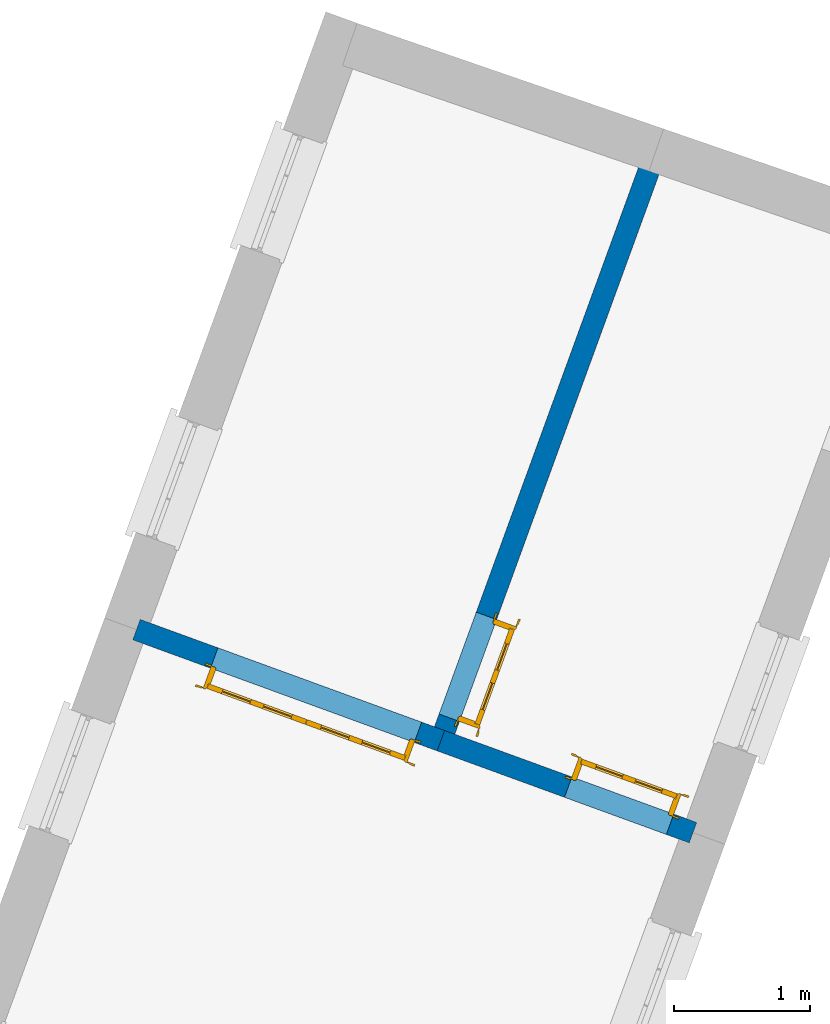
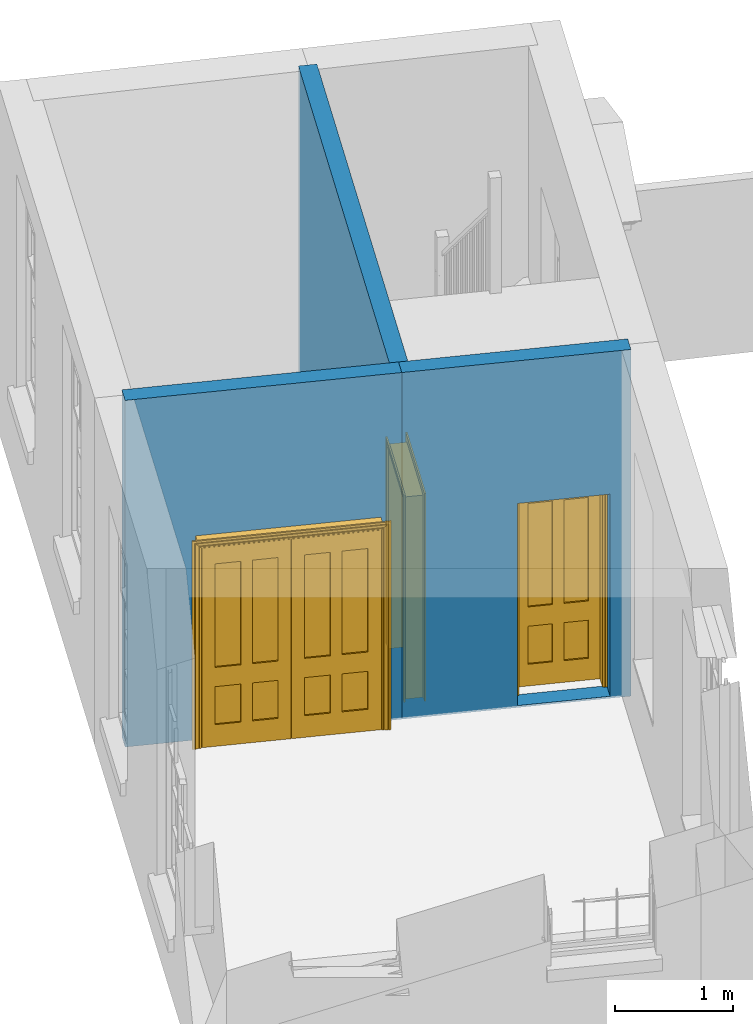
# One storey, part 4 of 6: 3 doors, 3 walls, 3 openings.
"""IFC4 building model written with IfcOpenShell, lengths in metres."""

import ifcopenshell
import ifcopenshell.guid

model = None  # the IFC model being written
_history = None  # IfcOwnerHistory: only IFC2X3 demands one
_inside = {}  # id of a spatial element -> (the spatial element, [elements in it])
_under = {}  # id of a project, library or spatial element -> (it, [spatial elements below it])
_declared = {}  # id of a project -> (the project, [libraries it declares])
_typed = {}  # id of a type object -> (the type object, [elements of that type])
_made_of = {}  # id of a material, layer set ... -> (it, [elements and type objects made of it])


def new_model(schema):
    """Start an empty IFC model of exactly this schema.

    Asked for "IFC4X3", IfcOpenShell would pick the latest addendum, in which some entities
    have other attributes; the version numbers below select the first issue.
    IFC2X3 requires an IfcOwnerHistory on every rooted entity: one is made here for all.
    """
    global model, _history
    if schema == "IFC4X3":
        model = ifcopenshell.file(schema_version=(4, 3, 0, 0))
    else:
        model = ifcopenshell.file(schema=schema)
    _inside.clear()
    _under.clear()
    _declared.clear()
    _typed.clear()
    _made_of.clear()
    _history = None
    if model.schema == "IFC2X3":
        org = make("IfcOrganization", Name="unknown")
        user = make(
            "IfcPersonAndOrganization",
            ThePerson=make("IfcPerson", FamilyName="unknown"),
            TheOrganization=org,
        )
        app = make(
            "IfcApplication",
            ApplicationDeveloper=org,
            Version="unknown",
            ApplicationFullName="unknown",
            ApplicationIdentifier="unknown",
        )
        _history = make(
            "IfcOwnerHistory",
            OwningUser=user,
            OwningApplication=app,
            ChangeAction="ADDED",
            CreationDate=0,
        )
    return model


def make(cls, **values):
    """One entity of the class cls with the attributes given. An attribute that is None is left unset."""
    return model.create_entity(
        cls, **{name: value for name, value in values.items() if value is not None}
    )


def rooted(cls, **values):
    """An entity with a GlobalId (a new one), such as an element, a storey or a relation."""
    return make(cls, GlobalId=ifcopenshell.guid.new(), OwnerHistory=_history, **values)


def si_unit(unit_type, name, prefix=None):
    """IfcSIUnit, for example si_unit("LENGTHUNIT", "METRE", prefix="MILLI")."""
    return make("IfcSIUnit", UnitType=unit_type, Prefix=prefix, Name=name)


def assignment(units):
    """IfcUnitAssignment: the units of a project."""
    return None if units is None else make("IfcUnitAssignment", Units=units)


def point(xyz):
    """IfcCartesianPoint."""
    return None if xyz is None else make("IfcCartesianPoint", Coordinates=xyz)


def direction(xyz):
    """IfcDirection."""
    return None if xyz is None else make("IfcDirection", DirectionRatios=xyz)


def frame(location, z_axis=None, x_axis=None):
    """IfcAxis2Placement3D, a coordinate frame: its origin and axes. An axis left out is left unset."""
    return make(
        "IfcAxis2Placement3D",
        Location=point(location),
        Axis=direction(z_axis),
        RefDirection=direction(x_axis),
    )


def origin():
    """The frame at (0, 0, 0) with its axes left unset."""
    return frame((0.0, 0.0, 0.0))


def origin_with_axes():
    """The frame at (0, 0, 0) with the z axis (0, 0, 1) and the x axis (1, 0, 0) written out."""
    return frame((0.0, 0.0, 0.0), z_axis=(0.0, 0.0, 1.0), x_axis=(1.0, 0.0, 0.0))


def place(relative_to, where):
    """IfcLocalPlacement: puts the frame where relative to a parent placement (None: the world)."""
    return make(
        "IfcLocalPlacement", PlacementRelTo=relative_to, RelativePlacement=where
    )


def context(
    kind, dimensions, precision=None, world=None, true_north=None, identifier=None
):
    """IfcGeometricRepresentationContext, for example the 3D "Model" context."""
    return make(
        "IfcGeometricRepresentationContext",
        ContextIdentifier=identifier,
        ContextType=kind,
        CoordinateSpaceDimension=dimensions,
        Precision=precision,
        WorldCoordinateSystem=world,
        TrueNorth=true_north,
    )


def subcontext(parent, identifier, kind, view, scale=None):
    """IfcGeometricRepresentationSubContext, for example "Body" below "Model"."""
    return make(
        "IfcGeometricRepresentationSubContext",
        ContextIdentifier=identifier,
        ContextType=kind,
        ParentContext=parent,
        TargetScale=scale,
        TargetView=view,
    )


def project(units=None, contexts=None):
    """IfcProject with its units and contexts."""
    return rooted(
        "IfcProject",
        Name="project",
        RepresentationContexts=contexts,
        UnitsInContext=assignment(units),
    )


def spatial(cls, under=None, at=None, **own):
    """A site, building, storey or space (cls), placed at a placement, below another one or the project."""
    s = rooted(cls, ObjectPlacement=at, **own)
    if under is not None:
        _under.setdefault(under.id(), (under, []))[1].append(s)
    return s


def polyline(points):
    """IfcPolyline through the points."""
    return make("IfcPolyline", Points=[point(p) for p in points])


def outline(outer, holes=None, kind="AREA"):
    """IfcArbitraryClosedProfileDef: a profile drawn as a closed curve; with holes, ...WithVoids."""
    if holes is None:
        return make("IfcArbitraryClosedProfileDef", ProfileType=kind, OuterCurve=outer)
    return make(
        "IfcArbitraryProfileDefWithVoids",
        ProfileType=kind,
        OuterCurve=outer,
        InnerCurves=holes,
    )


def extrude(swept, where, along, depth):
    """IfcExtrudedAreaSolid: the profile swept, set in the frame where, extruded along a direction by depth."""
    return make(
        "IfcExtrudedAreaSolid",
        SweptArea=swept,
        Position=where,
        ExtrudedDirection=direction(along),
        Depth=depth,
    )


def faces_of(points, faces, orient=None, outer=None):
    """IfcFace entities. A face is a list of loops; a loop is a list of indices into points, from 0.

    orient and outer hold one flag for each loop. By default every Orientation is true, the
    first loop of a face is its IfcFaceOuterBound and the others are IfcFaceBound.
    """
    made = []
    for i, loops in enumerate(faces):
        bounds = []
        for j, loop in enumerate(loops):
            is_outer = j == 0 if outer is None else outer[i][j]
            bounds.append(
                make(
                    "IfcFaceOuterBound" if is_outer else "IfcFaceBound",
                    Bound=make("IfcPolyLoop", Polygon=[points[k] for k in loop]),
                    Orientation=True if orient is None else orient[i][j],
                )
            )
        made.append(make("IfcFace", Bounds=bounds))
    return made


def faceted_brep(points, faces, orient=None, outer=None, voids=None):
    """IfcFacetedBrep: a solid bounded by flat faces; with voids (closed shells), ...WithVoids."""
    shared = [point(p) for p in points]
    hull = make("IfcClosedShell", CfsFaces=faces_of(shared, faces, orient, outer))
    if voids is None:
        return make("IfcFacetedBrep", Outer=hull)
    return make(
        "IfcFacetedBrepWithVoids",
        Outer=hull,
        Voids=[
            make(cls, CfsFaces=faces_of(shared, fs, o, b)) for cls, fs, o, b in voids
        ],
    )


def shape(context_of_items, identifier, shape_type, items):
    """IfcShapeRepresentation: the items that make up one representation, for example the "Body"."""
    return make(
        "IfcShapeRepresentation",
        ContextOfItems=context_of_items,
        RepresentationIdentifier=identifier,
        RepresentationType=shape_type,
        Items=items,
    )


def source(mapping_origin, context_of_items, identifier, shape_type, items):
    """IfcRepresentationMap: a shape defined once, which mapped items show again and again."""
    return make(
        "IfcRepresentationMap",
        MappingOrigin=mapping_origin,
        MappedRepresentation=shape(context_of_items, identifier, shape_type, items),
    )


def transform(
    local_origin,
    x_axis=None,
    y_axis=None,
    z_axis=None,
    scale=None,
    scale2=None,
    scale3=None,
    uniform=True,
):
    """IfcCartesianTransformationOperator3D, or its non-uniform kind. x_axis, y_axis, z_axis: its Axis1, 2, 3."""
    if uniform:
        return make(
            "IfcCartesianTransformationOperator3D",
            Axis1=direction(x_axis),
            Axis2=direction(y_axis),
            LocalOrigin=point(local_origin),
            Scale=scale,
            Axis3=direction(z_axis),
        )
    return make(
        "IfcCartesianTransformationOperator3DnonUniform",
        Axis1=direction(x_axis),
        Axis2=direction(y_axis),
        LocalOrigin=point(local_origin),
        Scale=scale,
        Axis3=direction(z_axis),
        Scale2=scale2,
        Scale3=scale3,
    )


def mapped(mapping_source, mapping_target):
    """IfcMappedItem: shows the shape of a source again, moved by a transform."""
    return make(
        "IfcMappedItem", MappingSource=mapping_source, MappingTarget=mapping_target
    )


def material(Name=None, Category=None):
    """IfcMaterial."""
    return make("IfcMaterial", Name=Name, Category=Category)


def layer(
    of_material, thickness, ventilated=None, Name=None, Category=None, Priority=None
):
    """IfcMaterialLayer: one layer of a wall or slab, of a material (None: an air gap)."""
    return make(
        "IfcMaterialLayer",
        Material=of_material,
        LayerThickness=thickness,
        IsVentilated=ventilated,
        Name=Name,
        Category=Category,
        Priority=Priority,
    )


def layer_set(layers, Name=None):
    """IfcMaterialLayerSet."""
    return make("IfcMaterialLayerSet", MaterialLayers=layers, LayerSetName=Name)


def layer_usage(for_layer_set, set_direction, sense, offset, extent=None):
    """IfcMaterialLayerSetUsage: how a layer set lies in its element."""
    return make(
        "IfcMaterialLayerSetUsage",
        ForLayerSet=for_layer_set,
        LayerSetDirection=set_direction,
        DirectionSense=sense,
        OffsetFromReferenceLine=offset,
        ReferenceExtent=extent,
    )


def made_of(thing, what):
    """Note that an element or type object is made of a material, layer set ...; save() writes the relation."""
    if what is not None:
        _made_of.setdefault(what.id(), (what, []))[1].append(thing)
    return thing


def type_object(cls, material=None, **own):
    """A type object (cls), such as IfcWallType, which elements share."""
    return made_of(rooted(cls, **own), material)


def type_shapes(of_type, sources):
    """Give a type object the sources (RepresentationMaps) that its elements show as mapped items."""
    of_type.RepresentationMaps = sources


def element(
    cls,
    number,
    at=None,
    inside=None,
    cuts=None,
    type_object=None,
    material=None,
    context=None,
    identifier="Body",
    shape_type=None,
    held_by="IfcProductDefinitionShape",
    body=None,
    shapes=None,
    **own,
):
    """One element of the class cls, such as IfcWall. Its Tag is "e" and its number.

    at: its placement. inside: the storey or other place that contains it. cuts: it is an
    opening in that element (IfcRelVoidsElement). A single representation is given by context,
    identifier, shape_type and body (its items); several are given by shapes. held_by: the class
    of the entity that holds the representations. save() writes the other relations.
    """
    e = rooted(cls, Tag="e%d" % number, ObjectPlacement=at, **own)
    if body is not None:
        shapes = [shape(context, identifier, shape_type, body)]
    if shapes is not None:
        e.Representation = make(held_by, Representations=shapes)
    if inside is not None:
        _inside.setdefault(inside.id(), (inside, []))[1].append(e)
    if cuts is not None:
        rooted(
            "IfcRelVoidsElement", RelatingBuildingElement=cuts, RelatedOpeningElement=e
        )
    if type_object is not None:
        _typed.setdefault(type_object.id(), (type_object, []))[1].append(e)
    return made_of(e, material)


def fill(opening, filler):
    """IfcRelFillsElement: the door or window that sits in an opening."""
    return rooted(
        "IfcRelFillsElement",
        RelatingOpeningElement=opening,
        RelatedBuildingElement=filler,
    )


def aggregate(whole, parts):
    """IfcRelAggregates: a whole, such as a stair, and the parts it consists of."""
    return rooted("IfcRelAggregates", RelatingObject=whole, RelatedObjects=parts)


def save(model, path):
    """Write the relations noted so far, then the file.

    IfcRelAggregates (storeys below a building ...), IfcRelContainedInSpatialStructure (elements
    in a storey), IfcRelDefinesByType, IfcRelAssociatesMaterial and IfcRelDeclares: one each for
    every whole, place, type object, material and project.
    """
    for whole, parts in _under.values():
        aggregate(whole, parts)
    for where, things in _inside.values():
        rooted(
            "IfcRelContainedInSpatialStructure",
            RelatedElements=things,
            RelatingStructure=where,
        )
    for kind, things in _typed.values():
        rooted("IfcRelDefinesByType", RelatedObjects=things, RelatingType=kind)
    for what, things in _made_of.values():
        rooted("IfcRelAssociatesMaterial", RelatedObjects=things, RelatingMaterial=what)
    for by, libraries in _declared.values():
        rooted("IfcRelDeclares", RelatingContext=by, RelatedDefinitions=libraries)
    model.write(path)


model = new_model("IFC4")

# Units and contexts
model_context = context("Model", 3, world=origin_with_axes())
body_context = subcontext(model_context, "Body", "Model", "MODEL_VIEW")
ifc_project = project(units=[si_unit("PLANEANGLEUNIT", "RADIAN"), si_unit("MASSUNIT", "GRAM", prefix="KILO"), si_unit("FORCEUNIT", "NEWTON", prefix="KILO"), si_unit("LENGTHUNIT", "METRE"), si_unit("AREAUNIT", "SQUARE_METRE"), si_unit("VOLUMEUNIT", "CUBIC_METRE")], contexts=[model_context, model_context])

# Sites, building, storey
site_1_placement = place(None, origin_with_axes())
site_1 = spatial("IfcSite", under=ifc_project, at=site_1_placement, Name="Tamar")
site_2_placement = place(site_1_placement, origin_with_axes())
site_2 = spatial("IfcSite", under=site_1, at=site_2_placement, Name="Site plot-12", CompositionType="ELEMENT")
building_placement = place(None, origin_with_axes())
building = spatial("IfcBuilding", under=site_2, at=building_placement, Name="Building plot-12", CompositionType="ELEMENT")
storey_placement = place(None, frame((0.0, 0.0, 26.0), z_axis=(0.0, 0.0, 1.0), x_axis=(1.0, 0.0, 0.0)))
storey = spatial("IfcBuildingStorey", under=building, at=storey_placement, Name="plot-12 0", CompositionType="ELEMENT", Elevation=26.0)

# Wall, opening, door
ifc_material = material(Name="Masonry")
ifc_layer = layer(ifc_material, 0.16, ventilated=False)
ifc_layer_set = layer_set([ifc_layer], Name="interior_0.08_0.08")
ifc_layer_usage = layer_usage(ifc_layer_set, "AXIS2", "POSITIVE", -0.08)
wall_type = type_object("IfcWallType", Name="interior_0.08_0.08", PredefinedType="SOLIDWALL", material=ifc_layer_set)
wall_1_placement = place(storey_placement, frame((239.183458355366, 309.278787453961, 0.0), z_axis=(0.0, 0.0, 1.0), x_axis=(-0.342734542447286, -0.939432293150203, 0.0)))
wall_1 = element("IfcWall", 1, at=wall_1_placement, inside=storey, type_object=wall_type, material=ifc_layer_usage, Name="interior", context=body_context, shape_type="SweptSolid", body=[
    extrude(outline(polyline([(-2.41731487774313e-14, 0.0799999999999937), (2.41278244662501e-14, -0.0799999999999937), (4.55219827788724, -0.0799999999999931), (4.55219827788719, 0.0799999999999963), (-2.41731487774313e-14, 0.0799999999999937)])), origin_with_axes(), (0.0, 0.0, 1.0), 3.6),
])
opening_1_placement = place(wall_1_placement, frame((3.57219827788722, 0.0, 0.0199999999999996)))
opening_1 = element("IfcOpeningElement", 2, at=opening_1_placement, cuts=wall_1, Name="My Opening", ObjectType="Opening", context=body_context, shape_type="SweptSolid", body=[
    extrude(outline(polyline([(0.0, -0.0999999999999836), (0.799999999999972, -0.100000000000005), (0.79999999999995, 1.09999999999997), (-2.22044604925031e-14, 1.09999999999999), (0.0, -0.0999999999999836)])), origin_with_axes(), (0.0, 0.0, 1.0), 2.1),
])
door_type_1 = type_object("IfcDoorType", Name="door_inside", OperationType="SINGLE_SWING_LEFT", PredefinedType="NOTDEFINED")
shared_shape_1 = source(origin(), body_context, "Body", "Brep", [
    faceted_brep([(0.773, 0.33, 1.895), (0.66, 0.33, 1.895), (0.66, 0.33, 2.073), (0.773, 0.33, 2.073), (0.773, 0.33, 0.82), (0.66, 0.33, 0.82), (0.45, 0.33, 1.895), (0.45, 0.33, 2.073), (0.773, 0.33, 0.62), (0.66, 0.33, 0.62), (0.66, 0.315, 0.82), (0.66, 0.315, 1.895), (0.45, 0.315, 1.895), (0.35, 0.33, 1.895), (0.35, 0.33, 2.073), (0.773, 0.33, 0.225), (0.66, 0.33, 0.225), (0.45, 0.33, 0.62), (0.45, 0.33, 0.82), (0.45, 0.315, 0.82), (0.35, 0.33, 0.82), (0.14, 0.33, 2.073), (0.14, 0.33, 1.895), (0.773, 0.33, 0.0), (0.66, 0.33, 0.0), (0.66, 0.315, 0.225), (0.66, 0.315, 0.62), (0.45, 0.315, 0.62), (0.35, 0.33, 0.62), (0.35, 0.315, 0.82), (0.35, 0.315, 1.895), (0.14, 0.315, 1.895), (0.027, 0.33, 2.073), (0.027, 0.33, 1.895), (0.773, 0.292, 0.0), (0.66, 0.292, 0.0), (0.45, 0.33, 0.0), (0.45, 0.33, 0.225), (0.45, 0.315, 0.225), (0.35, 0.33, 0.225), (0.14, 0.33, 0.82), (0.14, 0.33, 0.62), (0.14, 0.315, 0.82), (0.027, 0.33, 0.82), (0.773, 0.292, 0.225), (0.66, 0.292, 0.225), (0.45, 0.292, 0.0), (0.35, 0.33, 0.0), (0.35, 0.315, 0.225), (0.35, 0.315, 0.62), (0.14, 0.315, 0.62), (0.027, 0.33, 0.62), (0.773, 0.292, 0.62), (0.66, 0.292, 0.62), (0.45, 0.292, 0.225), (0.35, 0.292, 0.0), (0.14, 0.33, 0.225), (0.14, 0.33, 0.0), (0.14, 0.315, 0.225), (0.027, 0.33, 0.225), (0.773, 0.292, 0.82), (0.66, 0.292, 0.82), (0.66, 0.307, 0.62), (0.66, 0.307, 0.225), (0.45, 0.307, 0.225), (0.35, 0.292, 0.225), (0.14, 0.292, 0.0), (0.027, 0.33, 0.0), (0.773, 0.292, 1.895), (0.66, 0.292, 1.895), (0.45, 0.292, 0.62), (0.45, 0.292, 0.82), (0.45, 0.307, 0.62), (0.35, 0.292, 0.62), (0.14, 0.292, 0.225), (0.027, 0.292, 0.0), (0.773, 0.292, 2.073), (0.66, 0.292, 2.073), (0.66, 0.307, 1.895), (0.66, 0.307, 0.82), (0.45, 0.307, 0.82), (0.35, 0.292, 0.82), (0.35, 0.307, 0.62), (0.35, 0.307, 0.225), (0.14, 0.307, 0.225), (0.027, 0.292, 0.225), (0.45, 0.292, 1.895), (0.45, 0.292, 2.073), (0.45, 0.307, 1.895), (0.35, 0.292, 1.895), (0.14, 0.292, 0.82), (0.14, 0.292, 0.62), (0.14, 0.307, 0.62), (0.027, 0.292, 0.62), (0.35, 0.292, 2.073), (0.35, 0.307, 1.895), (0.35, 0.307, 0.82), (0.14, 0.307, 0.82), (0.027, 0.292, 0.82), (0.14, 0.292, 2.073), (0.14, 0.292, 1.895), (0.14, 0.307, 1.895), (0.027, 0.292, 1.895), (0.027, 0.292, 2.073), (0.02, 0.335, 0.0), (0.005, 0.34, 0.0), (0.005, 0.34, 2.095), (0.02, 0.335, 2.08), (0.02, 0.33, 0.0), (0.0, 0.335, 0.0), (0.0, 0.335, 2.1), (0.795, 0.34, 2.095), (0.78, 0.335, 2.08), (0.02, 0.33, 2.08), (0.0, 0.33, 0.0), (-0.032, 0.345, 0.0), (-0.032, 0.345, 2.132), (0.8, 0.335, 2.1), (0.795, 0.34, 0.0), (0.78, 0.335, 0.0), (0.78, 0.33, 2.08), (0.04, 0.29, 0.0), (0.025, 0.29, 0.0), (0.025, 0.29, 2.075), (0.04, 0.29, 2.06), (-0.04, 0.34, 0.0), (-0.04, 0.34, 2.14), (0.832, 0.345, 2.132), (0.8, 0.335, 0.0), (0.78, 0.33, 0.0), (0.8, 0.33, 0.0), (0.86, 0.33, 0.0), (0.86, 0.33, 2.16), (0.8, 0.33, 2.1), (-0.06, 0.33, 2.16), (0.0, 0.33, 2.1), (-0.06, 0.33, 0.0), (-0.04, 0.345, 0.0), (-0.04, 0.345, 2.14), (0.84, 0.34, 2.14), (0.832, 0.345, 0.0), (0.84, 0.34, 0.0), (0.86, 0.345, 0.0), (0.86, 0.345, 2.16), (-0.06, 0.345, 2.16), (-0.06, 0.345, 0.0), (0.84, 0.345, 0.0), (0.84, 0.345, 2.14), (-0.025, 0.155, 0.0), (-0.025, 0.16, 0.0), (-0.025, 0.16, 2.125), (-0.025, 0.155, 2.125), (-0.017, 0.155, 0.0), (-0.017, 0.155, 2.117), (0.825, 0.16, 2.125), (0.825, 0.155, 2.125), (0.825, 0.155, 0.0), (0.845, 0.155, 0.0), (-0.045, 0.155, 2.145), (-0.045, 0.155, 0.0), (0.845, 0.155, 2.145), (0.015, 0.165, 0.0), (0.015, 0.165, 2.085), (0.817, 0.155, 2.117), (0.825, 0.16, 0.0), (0.845, 0.17, 0.0), (0.845, 0.17, 2.145), (-0.045, 0.17, 2.145), (-0.045, 0.17, 0.0), (0.02, 0.16, 0.0), (0.02, 0.16, 2.08), (0.785, 0.165, 2.085), (0.817, 0.155, 0.0), (0.8, 0.17, 0.0), (0.8, 0.17, 2.1), (0.0, 0.17, 2.1), (0.0, 0.17, 0.0), (0.035, 0.165, 0.0), (0.035, 0.165, 2.065), (0.78, 0.16, 2.08), (0.785, 0.165, 0.0), (0.775, 0.29, 2.075), (0.76, 0.29, 2.06), (0.035, 0.17, 2.065), (0.035, 0.17, 0.0), (0.765, 0.165, 2.065), (0.78, 0.16, 0.0), (0.765, 0.17, 0.0), (0.765, 0.17, 2.065), (0.765, 0.165, 0.0), (0.04, 0.17, 2.06), (0.04, 0.17, 0.0), (0.76, 0.17, 2.06), (0.76, 0.17, 0.0), (0.76, 0.29, 0.0), (0.775, 0.29, 0.0), (0.025, 0.33, 0.0), (0.025, 0.33, 2.075), (0.775, 0.33, 0.0), (0.775, 0.33, 2.075)], [[[0, 1, 2, 3]], [[1, 0, 4, 5]], [[1, 6, 7, 2]], [[8, 9, 5, 4]], [[1, 5, 10, 11]], [[6, 1, 11, 12]], [[6, 13, 14, 7]], [[15, 16, 9, 8]], [[9, 17, 18, 5]], [[5, 18, 19, 10]], [[10, 19, 12, 11]], [[18, 6, 12, 19]], [[18, 20, 13, 6]], [[21, 14, 13, 22]], [[23, 24, 16, 15]], [[9, 16, 25, 26]], [[17, 9, 26, 27]], [[17, 28, 20, 18]], [[13, 20, 29, 30]], [[22, 13, 30, 31]], [[32, 21, 22, 33]], [[34, 35, 24, 23]], [[24, 36, 37, 16]], [[16, 37, 38, 25]], [[25, 38, 27, 26]], [[37, 17, 27, 38]], [[37, 39, 28, 17]], [[40, 20, 28, 41]], [[20, 40, 42, 29]], [[31, 30, 29, 42]], [[40, 22, 31, 42]], [[33, 22, 40, 43]], [[35, 34, 44, 45]], [[35, 46, 36, 24]], [[36, 47, 39, 37]], [[28, 39, 48, 49]], [[41, 28, 49, 50]], [[43, 40, 41, 51]], [[45, 44, 52, 53]], [[46, 35, 45, 54]], [[46, 55, 47, 36]], [[56, 39, 47, 57]], [[39, 56, 58, 48]], [[50, 49, 48, 58]], [[56, 41, 50, 58]], [[51, 41, 56, 59]], [[53, 52, 60, 61]], [[45, 53, 62, 63]], [[54, 45, 63, 64]], [[55, 46, 54, 65]], [[55, 66, 57, 47]], [[59, 56, 57, 67]], [[61, 60, 68, 69]], [[70, 53, 61, 71]], [[53, 70, 72, 62]], [[72, 64, 63, 62]], [[70, 54, 64, 72]], [[65, 54, 70, 73]], [[65, 74, 66, 55]], [[67, 57, 66, 75]], [[69, 68, 76, 77]], [[61, 69, 78, 79]], [[71, 61, 79, 80]], [[73, 70, 71, 81]], [[65, 73, 82, 83]], [[74, 65, 83, 84]], [[74, 85, 75, 66]], [[86, 69, 77, 87]], [[69, 86, 88, 78]], [[88, 80, 79, 78]], [[86, 71, 80, 88]], [[81, 71, 86, 89]], [[73, 81, 90, 91]], [[73, 91, 92, 82]], [[83, 82, 92, 84]], [[91, 74, 84, 92]], [[91, 93, 85, 74]], [[89, 86, 87, 94]], [[81, 89, 95, 96]], [[90, 81, 96, 97]], [[90, 98, 93, 91]], [[94, 99, 100, 89]], [[89, 100, 101, 95]], [[101, 97, 96, 95]], [[100, 90, 97, 101]], [[100, 102, 98, 90]], [[99, 103, 102, 100]], [[32, 103, 99, 21]], [[102, 103, 32, 33]], [[98, 102, 33, 43]], [[21, 99, 94, 14]], [[94, 87, 7, 14]], [[7, 87, 77, 2]], [[76, 3, 2, 77]], [[43, 51, 93, 98]], [[51, 59, 85, 93]], [[67, 75, 85, 59]], [[34, 23, 15, 44]], [[44, 15, 8, 52]], [[52, 8, 4, 60]], [[0, 68, 60, 4]], [[0, 3, 76, 68]], [[104, 105, 106, 107]], [[104, 108, 109, 105]], [[105, 109, 110, 106]], [[107, 106, 111, 112]], [[107, 113, 108, 104]], [[114, 109, 108]], [[109, 115, 116, 110]], [[106, 110, 117, 111]], [[112, 111, 118, 119]], [[113, 107, 112, 120]], [[121, 122, 123, 124]], [[115, 109, 114, 125]], [[115, 125, 126, 116]], [[110, 116, 127, 117]], [[111, 117, 128, 118]], [[118, 128, 129, 119]], [[120, 112, 119, 129]], [[130, 129, 128]], [[130, 131, 132, 133]], [[133, 132, 134, 135]], [[135, 134, 136, 114]], [[136, 125, 114]], [[125, 137, 138, 126]], [[116, 126, 139, 127]], [[117, 127, 140, 128]], [[141, 130, 128, 140]], [[131, 130, 141]], [[131, 142, 143, 132]], [[132, 143, 144, 134]], [[134, 144, 145, 136]], [[137, 125, 136, 145]], [[143, 142, 146]], [[143, 146, 147]], [[137, 145, 144]], [[143, 147, 138]], [[138, 137, 144]], [[143, 138, 144]], [[126, 138, 147, 139]], [[127, 139, 141, 140]], [[142, 131, 141, 146]], [[139, 147, 146, 141]], [[148, 149, 150, 151]], [[149, 152, 153, 150]], [[151, 150, 154, 155]], [[155, 156, 157]], [[158, 159, 148]], [[158, 148, 151]], [[155, 157, 160]], [[158, 151, 155]], [[155, 160, 158]], [[152, 161, 162, 153]], [[150, 153, 163, 154]], [[155, 154, 164, 156]], [[156, 164, 165, 157]], [[157, 165, 166, 160]], [[160, 166, 167, 158]], [[158, 167, 168, 159]], [[161, 169, 170, 162]], [[153, 162, 171, 163]], [[154, 163, 172, 164]], [[165, 164, 173]], [[165, 173, 174, 166]], [[166, 174, 175, 167]], [[167, 175, 176, 168]], [[169, 177, 178, 170]], [[162, 170, 179, 171]], [[163, 171, 180, 172]], [[172, 180, 173, 164]], [[124, 123, 181, 182]], [[183, 178, 177, 184]], [[170, 178, 185, 179]], [[171, 179, 186, 180]], [[187, 173, 180]], [[185, 188, 187, 189]], [[188, 185, 178, 183]], [[179, 185, 189, 186]], [[189, 187, 180, 186]], [[190, 183, 184, 191]], [[192, 188, 183, 190]], [[191, 184, 122, 121]], [[124, 190, 191, 121]], [[193, 187, 188, 192]], [[182, 192, 190, 124]], [[184, 176, 122]], [[194, 195, 187, 193]], [[192, 182, 194, 193]], [[161, 176, 184]], [[114, 108, 122, 176]], [[173, 187, 195]], [[152, 149, 176, 161]], [[169, 161, 184, 177]], [[196, 122, 108]], [[176, 175, 135, 114]], [[173, 195, 129, 130]], [[176, 149, 168]], [[123, 122, 196, 197]], [[196, 108, 113, 197]], [[175, 174, 133, 135]], [[198, 129, 195]], [[133, 174, 173, 130]], [[159, 168, 149, 148]], [[181, 123, 197, 199]], [[197, 113, 120, 199]], [[199, 120, 129, 198]], [[195, 181, 199, 198]], [[195, 194, 182, 181]]]),
])
type_shapes(door_type_1, [shared_shape_1])
door_1_placement = place(storey_placement, frame((237.865199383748, 305.957222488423, 0.0199999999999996), z_axis=(0.0, 0.0, 1.0), x_axis=(-0.274187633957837, -0.75154583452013, 0.0)))
door_1 = element("IfcDoor", 3, at=door_1_placement, inside=storey, type_object=door_type_1, Name="kitchen inside door", OverallHeight=2.1, OverallWidth=0.8, context=body_context, shape_type="MappedRepresentation", body=[
    mapped(shared_shape_1, transform((0.0, 0.0, 0.0), scale=1.0)),
])
fill(opening_1, door_1)

wall_2_placement = place(storey_placement, frame((237.623262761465, 305.002305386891, 0.0), z_axis=(0.0, 0.0, 1.0), x_axis=(0.939432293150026, -0.342734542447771, 0.0)))
wall_2 = element("IfcWall", 4, at=wall_2_placement, inside=storey, type_object=wall_type, material=ifc_layer_usage, Name="interior", context=body_context, shape_type="SweptSolid", body=[
    extrude(outline(polyline([(-2.26883816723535e-15, 0.0799999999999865), (2.25904099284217e-15, -0.0799999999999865), (1.97918214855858, -0.0799999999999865), (1.97918214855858, 0.0799999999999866), (-2.26883816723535e-15, 0.0799999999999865)])), origin_with_axes(), (0.0, 0.0, 1.0), 3.6),
])
opening_2_placement = place(wall_2_placement, frame((0.999182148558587, 0.0, 0.0199999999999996)))
opening_2 = element("IfcOpeningElement", 5, at=opening_2_placement, cuts=wall_2, Name="My Opening", ObjectType="Opening", context=body_context, shape_type="SweptSolid", body=[
    extrude(outline(polyline([(0.0, -0.100000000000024), (0.799999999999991, -0.100000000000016), (0.799999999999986, 1.10000000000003), (-4.88498130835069e-15, 1.10000000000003), (0.0, -0.100000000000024)])), origin_with_axes(), (0.0, 0.0, 1.0), 2.1),
])
door_2_placement = place(storey_placement, frame((238.527653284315, 304.565907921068, 0.0199999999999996), z_axis=(0.0, 0.0, 1.0), x_axis=(0.751545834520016, -0.274187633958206, 0.0)))
door_2 = element("IfcDoor", 6, at=door_2_placement, inside=storey, type_object=door_type_1, Name="living inside door", OverallHeight=2.1, OverallWidth=0.8, context=body_context, shape_type="MappedRepresentation", body=[
    mapped(shared_shape_1, transform((0.0, 0.0, 0.0), scale=1.0)),
])
fill(opening_2, door_2)

wall_3_placement = place(storey_placement, frame((237.623262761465, 305.002305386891, 0.0), z_axis=(0.0, 0.0, 1.0), x_axis=(-0.93943229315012, 0.342734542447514, 0.0)))
wall_3 = element("IfcWall", 7, at=wall_3_placement, inside=storey, type_object=wall_type, material=ifc_layer_usage, Name="interior", context=body_context, shape_type="SweptSolid", body=[
    extrude(outline(polyline([(1.96514052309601e-14, 0.0799999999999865), (-1.96416080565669e-14, -0.0799999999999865), (2.38984867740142, -0.079999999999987), (2.38984867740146, 0.0799999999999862), (1.96514052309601e-14, 0.0799999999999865)])), origin_with_axes(), (0.0, 0.0, 1.0), 3.6),
])
opening_3_placement = place(wall_3_placement, frame((0.180000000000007, 0.0, 0.0199999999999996)))
opening_3 = element("IfcOpeningElement", 8, at=opening_3_placement, cuts=wall_3, Name="My Opening", ObjectType="Opening", context=body_context, shape_type="SweptSolid", body=[
    extrude(outline(polyline([(0.0, -0.0999999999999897), (1.59999999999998, -0.0999999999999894), (1.59999999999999, 1.10000000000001), (1.02973185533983e-14, 1.10000000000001), (0.0, -0.0999999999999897)])), origin_with_axes(), (0.0, 0.0, 1.0), 2.1),
])
door_type_2 = type_object("IfcDoorType", Name="door_inside_double", OperationType="SINGLE_SWING_LEFT", PredefinedType="NOTDEFINED")
shared_shape_2 = source(origin(), body_context, "Body", "Brep", [
    faceted_brep([(0.14, 0.307, 1.895), (0.14, 0.307, 0.82), (0.363, 0.307, 0.82), (0.363, 0.307, 1.895), (0.14, 0.292, 1.895), (0.14, 0.292, 0.82), (0.363, 0.292, 0.82), (0.363, 0.292, 1.895), (0.027, 0.292, 1.895), (0.027, 0.292, 0.82), (0.363, 0.292, 0.62), (0.14, 0.292, 0.62), (0.463, 0.292, 0.82), (0.463, 0.292, 1.895), (0.363, 0.292, 2.073), (0.14, 0.292, 2.073), (0.027, 0.292, 2.073), (0.027, 0.33, 1.895), (0.027, 0.33, 0.82), (0.027, 0.292, 0.62), (0.463, 0.292, 0.62), (0.14, 0.307, 0.62), (0.363, 0.307, 0.62), (0.463, 0.307, 0.82), (0.463, 0.307, 1.895), (0.463, 0.292, 2.073), (0.14, 0.33, 2.073), (0.363, 0.33, 2.073), (0.027, 0.33, 2.073), (0.14, 0.33, 1.895), (0.14, 0.33, 0.82), (0.027, 0.33, 0.62), (0.027, 0.292, 0.225), (0.14, 0.292, 0.225), (0.363, 0.292, 0.225), (0.463, 0.292, 0.225), (0.686, 0.292, 0.62), (0.686, 0.292, 0.82), (0.14, 0.307, 0.225), (0.363, 0.307, 0.225), (0.686, 0.307, 0.82), (0.686, 0.307, 1.895), (0.686, 0.292, 1.895), (0.686, 0.292, 2.073), (0.463, 0.33, 2.073), (0.363, 0.33, 1.895), (0.14, 0.315, 1.895), (0.14, 0.315, 0.82), (0.14, 0.33, 0.62), (0.027, 0.33, 0.225), (0.027, 0.292, 0.0), (0.14, 0.292, 0.0), (0.363, 0.292, 0.0), (0.463, 0.292, 0.0), (0.463, 0.307, 0.225), (0.463, 0.307, 0.62), (0.686, 0.307, 0.62), (0.799, 0.292, 0.62), (0.799, 0.292, 0.82), (0.799, 0.292, 1.895), (0.799, 0.292, 2.073), (0.686, 0.33, 2.073), (0.463, 0.33, 1.895), (0.363, 0.315, 1.895), (0.363, 0.315, 0.82), (0.363, 0.33, 0.82), (0.363, 0.33, 0.62), (0.14, 0.33, 0.225), (0.027, 0.33, 0.0), (0.14, 0.33, 0.0), (0.363, 0.33, 0.0), (0.463, 0.33, 0.0), (0.686, 0.292, 0.0), (0.686, 0.292, 0.225), (0.686, 0.307, 0.225), (0.799, 0.292, 0.225), (0.799, 0.33, 0.62), (0.799, 0.33, 0.82), (0.799, 0.33, 1.895), (0.799, 0.33, 2.073), (0.686, 0.33, 1.895), (0.463, 0.33, 0.82), (0.463, 0.33, 0.62), (0.363, 0.315, 0.62), (0.14, 0.315, 0.62), (0.14, 0.315, 0.225), (0.363, 0.33, 0.225), (0.463, 0.33, 0.225), (0.686, 0.33, 0.0), (0.799, 0.292, 0.0), (0.799, 0.33, 0.225), (0.686, 0.33, 0.62), (0.686, 0.33, 0.82), (0.686, 0.315, 1.895), (0.463, 0.315, 1.895), (0.463, 0.315, 0.82), (0.363, 0.315, 0.225), (0.686, 0.33, 0.225), (0.799, 0.33, 0.0), (0.686, 0.315, 0.82), (0.463, 0.315, 0.62), (0.463, 0.315, 0.225), (0.686, 0.315, 0.62), (0.686, 0.315, 0.225), (1.46, 0.33, 1.895), (1.237, 0.33, 1.895), (1.237, 0.33, 2.073), (1.46, 0.33, 2.073), (1.46, 0.315, 1.895), (1.237, 0.315, 1.895), (1.137, 0.33, 1.895), (1.137, 0.33, 2.073), (1.237, 0.292, 2.073), (1.46, 0.292, 2.073), (1.573, 0.33, 1.895), (1.573, 0.33, 2.073), (1.46, 0.33, 0.82), (1.46, 0.315, 0.82), (1.237, 0.315, 0.82), (1.237, 0.33, 0.82), (1.137, 0.33, 0.82), (0.914, 0.33, 2.073), (0.914, 0.33, 1.895), (1.137, 0.292, 2.073), (1.237, 0.292, 1.895), (1.46, 0.292, 1.895), (1.573, 0.292, 2.073), (1.573, 0.33, 0.82), (1.573, 0.292, 1.895), (1.237, 0.33, 0.62), (1.137, 0.33, 0.62), (1.137, 0.315, 0.82), (1.137, 0.315, 1.895), (0.914, 0.292, 2.073), (0.914, 0.315, 1.895), (0.801, 0.33, 2.073), (0.801, 0.33, 1.895), (1.137, 0.292, 1.895), (1.237, 0.307, 1.895), (1.46, 0.307, 1.895), (1.573, 0.292, 0.82), (1.573, 0.33, 0.62), (1.46, 0.33, 0.62), (1.237, 0.33, 0.225), (1.137, 0.33, 0.225), (0.914, 0.33, 0.82), (0.914, 0.33, 0.62), (0.914, 0.315, 0.82), (0.801, 0.292, 2.073), (0.914, 0.292, 1.895), (0.801, 0.33, 0.82), (0.801, 0.292, 1.895), (1.137, 0.292, 0.82), (1.237, 0.292, 0.82), (1.237, 0.307, 0.82), (1.46, 0.307, 0.82), (1.46, 0.292, 0.82), (1.573, 0.292, 0.62), (1.573, 0.33, 0.225), (1.46, 0.33, 0.225), (1.46, 0.315, 0.62), (1.237, 0.315, 0.62), (1.237, 0.33, 0.0), (1.137, 0.33, 0.0), (1.137, 0.315, 0.225), (1.137, 0.315, 0.62), (1.237, 0.315, 0.225), (0.914, 0.315, 0.62), (0.801, 0.33, 0.62), (0.914, 0.307, 1.895), (1.137, 0.307, 1.895), (0.801, 0.292, 0.82), (1.137, 0.292, 0.62), (1.237, 0.292, 0.62), (1.137, 0.307, 0.82), (1.46, 0.292, 0.62), (1.573, 0.292, 0.225), (1.573, 0.33, 0.0), (1.46, 0.33, 0.0), (1.46, 0.315, 0.225), (1.237, 0.292, 0.0), (1.137, 0.292, 0.0), (0.914, 0.33, 0.225), (0.914, 0.33, 0.0), (0.914, 0.315, 0.225), (0.801, 0.33, 0.225), (0.801, 0.292, 0.62), (0.914, 0.292, 0.82), (0.914, 0.307, 0.82), (1.137, 0.292, 0.225), (1.237, 0.292, 0.225), (0.914, 0.292, 0.62), (1.46, 0.292, 0.225), (1.573, 0.292, 0.0), (1.46, 0.292, 0.0), (0.914, 0.292, 0.0), (0.801, 0.33, 0.0), (0.801, 0.292, 0.225), (1.237, 0.307, 0.225), (1.237, 0.307, 0.62), (1.137, 0.307, 0.62), (1.137, 0.307, 0.225), (1.46, 0.307, 0.62), (0.914, 0.307, 0.62), (1.46, 0.307, 0.225), (0.914, 0.292, 0.225), (0.801, 0.292, 0.0), (0.914, 0.307, 0.225), (0.02, 0.335, 0.0), (0.005, 0.34, 0.0), (0.005, 0.34, 2.095), (0.02, 0.335, 2.08), (0.02, 0.33, 0.0), (0.0, 0.335, 0.0), (0.0, 0.335, 2.1), (1.595, 0.34, 2.095), (1.58, 0.335, 2.08), (0.02, 0.33, 2.08), (0.0, 0.33, 0.0), (-0.032, 0.345, 0.0), (-0.032, 0.345, 2.132), (1.6, 0.335, 2.1), (1.595, 0.34, 0.0), (1.58, 0.335, 0.0), (1.58, 0.33, 2.08), (0.025, 0.33, 0.0), (0.025, 0.33, 2.075), (-0.04, 0.34, 0.0), (0.025, 0.29, 0.0), (0.0, 0.17, 0.0), (-0.04, 0.34, 2.14), (1.632, 0.345, 2.132), (1.6, 0.335, 0.0), (1.58, 0.33, 0.0), (1.575, 0.33, 2.075), (0.025, 0.29, 2.075), (-0.06, 0.33, 0.0), (0.035, 0.17, 0.0), (0.0, 0.17, 2.1), (0.0, 0.33, 2.1), (-0.04, 0.345, 0.0), (-0.04, 0.345, 2.14), (1.64, 0.34, 2.14), (1.632, 0.345, 0.0), (1.6, 0.33, 0.0), (1.575, 0.33, 0.0), (1.575, 0.29, 2.075), (0.04, 0.29, 0.0), (0.04, 0.29, 2.06), (-0.06, 0.345, 0.0), (-0.06, 0.33, 2.16), (0.015, 0.165, 0.0), (0.04, 0.17, 0.0), (-0.045, 0.17, 2.145), (-0.045, 0.17, 0.0), (1.6, 0.17, 2.1), (1.6, 0.33, 2.1), (-0.06, 0.345, 2.16), (1.64, 0.345, 2.14), (1.64, 0.34, 0.0), (1.6, 0.17, 0.0), (1.575, 0.29, 0.0), (1.56, 0.29, 2.06), (0.04, 0.17, 2.06), (1.66, 0.33, 2.16), (-0.017, 0.155, 0.0), (-0.025, 0.16, 0.0), (0.02, 0.16, 0.0), (0.035, 0.165, 0.0), (0.035, 0.17, 2.065), (1.645, 0.17, 2.145), (-0.045, 0.155, 2.145), (-0.045, 0.155, 0.0), (1.66, 0.345, 2.16), (1.64, 0.345, 0.0), (1.66, 0.33, 0.0), (1.565, 0.17, 0.0), (1.56, 0.29, 0.0), (1.56, 0.17, 2.06), (-0.017, 0.155, 2.117), (-0.025, 0.16, 2.125), (0.015, 0.165, 2.085), (0.02, 0.16, 2.08), (0.035, 0.165, 2.065), (1.565, 0.17, 2.065), (1.645, 0.17, 0.0), (1.645, 0.155, 2.145), (-0.025, 0.155, 0.0), (1.66, 0.345, 0.0), (1.585, 0.165, 0.0), (1.56, 0.17, 0.0), (1.617, 0.155, 2.117), (1.625, 0.16, 2.125), (-0.025, 0.155, 2.125), (1.585, 0.165, 2.085), (1.58, 0.16, 2.08), (1.565, 0.165, 2.065), (1.625, 0.16, 0.0), (1.645, 0.155, 0.0), (1.625, 0.155, 2.125), (1.617, 0.155, 0.0), (1.565, 0.165, 0.0), (1.58, 0.16, 0.0), (1.625, 0.155, 0.0)], [[[0, 1, 2, 3]], [[1, 0, 4, 5]], [[2, 1, 5, 6]], [[6, 7, 3, 2]], [[7, 4, 0, 3]], [[4, 8, 9, 5]], [[10, 6, 5, 11]], [[6, 12, 13, 7]], [[14, 15, 4, 7]], [[15, 16, 8, 4]], [[9, 8, 17, 18]], [[5, 9, 19, 11]], [[10, 20, 12, 6]], [[10, 11, 21, 22]], [[13, 12, 23, 24]], [[7, 13, 25, 14]], [[26, 15, 14, 27]], [[28, 16, 15, 26]], [[8, 16, 28, 17]], [[17, 29, 30, 18]], [[18, 31, 19, 9]], [[11, 19, 32, 33]], [[34, 35, 20, 10]], [[20, 36, 37, 12]], [[11, 33, 38, 21]], [[39, 22, 21, 38]], [[34, 10, 22, 39]], [[12, 37, 40, 23]], [[24, 23, 40, 41]], [[42, 13, 24, 41]], [[13, 42, 43, 25]], [[14, 25, 44, 27]], [[26, 27, 45, 29]], [[28, 26, 29, 17]], [[30, 29, 46, 47]], [[18, 30, 48, 31]], [[31, 49, 32, 19]], [[33, 32, 50, 51]], [[52, 53, 35, 34]], [[20, 35, 54, 55]], [[36, 20, 55, 56]], [[36, 57, 58, 37]], [[33, 34, 39, 38]], [[37, 42, 41, 40]], [[42, 59, 60, 43]], [[44, 25, 43, 61]], [[62, 45, 27, 44]], [[29, 45, 63, 46]], [[46, 63, 64, 47]], [[65, 30, 47, 64]], [[30, 65, 66, 48]], [[31, 48, 67, 49]], [[68, 50, 32, 49]], [[68, 69, 51, 50]], [[34, 33, 51, 52]], [[53, 52, 70, 71]], [[53, 72, 73, 35]], [[35, 73, 74, 54]], [[55, 54, 74, 56]], [[73, 36, 56, 74]], [[73, 75, 57, 36]], [[57, 76, 77, 58]], [[37, 58, 59, 42]], [[78, 79, 60, 59]], [[60, 79, 61, 43]], [[80, 62, 44, 61]], [[81, 65, 45, 62]], [[45, 65, 64, 63]], [[82, 66, 65, 81]], [[48, 66, 83, 84]], [[67, 48, 84, 85]], [[49, 67, 69, 68]], [[52, 51, 69, 70]], [[71, 70, 86, 87]], [[72, 53, 71, 88]], [[72, 89, 75, 73]], [[75, 90, 76, 57]], [[76, 91, 92, 77]], [[78, 59, 58, 77]], [[78, 80, 61, 79]], [[62, 80, 93, 94]], [[81, 62, 94, 95]], [[87, 86, 66, 82]], [[91, 82, 81, 92]], [[66, 86, 96, 83]], [[84, 83, 96, 85]], [[86, 67, 85, 96]], [[67, 86, 70, 69]], [[88, 71, 87, 97]], [[89, 72, 88, 98]], [[89, 98, 90, 75]], [[90, 97, 91, 76]], [[80, 78, 77, 92]], [[80, 92, 99, 93]], [[99, 95, 94, 93]], [[92, 81, 95, 99]], [[87, 82, 100, 101]], [[82, 91, 102, 100]], [[97, 87, 101, 103]], [[98, 88, 97, 90]], [[91, 97, 103, 102]], [[103, 101, 100, 102]], [[104, 105, 106, 107]], [[105, 104, 108, 109]], [[105, 110, 111, 106]], [[106, 112, 113, 107]], [[114, 104, 107, 115]], [[104, 116, 117, 108]], [[117, 118, 109, 108]], [[119, 105, 109, 118]], [[119, 120, 110, 105]], [[121, 111, 110, 122]], [[123, 112, 106, 111]], [[124, 125, 113, 112]], [[126, 115, 107, 113]], [[104, 114, 127, 116]], [[114, 115, 126, 128]], [[116, 119, 118, 117]], [[129, 130, 120, 119]], [[110, 120, 131, 132]], [[121, 133, 123, 111]], [[122, 110, 132, 134]], [[135, 121, 122, 136]], [[137, 124, 112, 123]], [[125, 124, 138, 139]], [[125, 128, 126, 113]], [[114, 128, 140, 127]], [[141, 142, 116, 127]], [[142, 129, 119, 116]], [[143, 144, 130, 129]], [[145, 120, 130, 146]], [[120, 145, 147, 131]], [[134, 132, 131, 147]], [[135, 148, 133, 121]], [[123, 133, 149, 137]], [[145, 122, 134, 147]], [[136, 122, 145, 150]], [[151, 148, 135, 136]], [[152, 153, 124, 137]], [[124, 153, 154, 138]], [[138, 154, 155, 139]], [[156, 125, 139, 155]], [[156, 140, 128, 125]], [[157, 141, 127, 140]], [[158, 159, 142, 141]], [[129, 142, 160, 161]], [[162, 163, 144, 143]], [[130, 144, 164, 165]], [[143, 129, 161, 166]], [[146, 130, 165, 167]], [[150, 145, 146, 168]], [[133, 148, 151, 149]], [[137, 149, 169, 170]], [[171, 151, 136, 150]], [[172, 173, 153, 152]], [[152, 137, 170, 174]], [[153, 156, 155, 154]], [[175, 157, 140, 156]], [[176, 158, 141, 157]], [[177, 178, 159, 158]], [[142, 159, 179, 160]], [[179, 166, 161, 160]], [[180, 181, 163, 162]], [[182, 144, 163, 183]], [[178, 162, 143, 159]], [[144, 182, 184, 164]], [[167, 165, 164, 184]], [[159, 143, 166, 179]], [[182, 146, 167, 184]], [[168, 146, 182, 185]], [[150, 168, 186, 171]], [[149, 151, 171, 187]], [[149, 187, 188, 169]], [[169, 188, 174, 170]], [[189, 190, 173, 172]], [[173, 175, 156, 153]], [[172, 152, 187, 191]], [[187, 152, 174, 188]], [[192, 176, 157, 175]], [[193, 177, 158, 176]], [[193, 194, 178, 177]], [[181, 180, 190, 189]], [[181, 195, 183, 163]], [[194, 180, 162, 178]], [[185, 182, 183, 196]], [[168, 185, 197, 186]], [[187, 171, 186, 191]], [[173, 190, 198, 199]], [[189, 172, 200, 201]], [[175, 173, 199, 202]], [[172, 191, 203, 200]], [[194, 193, 176, 192]], [[192, 175, 202, 204]], [[180, 194, 192, 190]], [[189, 205, 195, 181]], [[196, 183, 195, 206]], [[196, 206, 197, 185]], [[191, 186, 197, 205]], [[190, 192, 204, 198]], [[199, 198, 204, 202]], [[201, 200, 203, 207]], [[205, 189, 201, 207]], [[191, 205, 207, 203]], [[205, 197, 206, 195]], [[208, 209, 210, 211]], [[208, 212, 213, 209]], [[209, 213, 214, 210]], [[211, 210, 215, 216]], [[211, 217, 212, 208]], [[218, 213, 212]], [[213, 219, 220, 214]], [[210, 214, 221, 215]], [[216, 215, 222, 223]], [[217, 211, 216, 224]], [[225, 212, 217, 226]], [[219, 213, 218, 227]], [[218, 212, 228, 229]], [[219, 227, 230, 220]], [[214, 220, 231, 221]], [[215, 221, 232, 222]], [[222, 232, 233, 223]], [[224, 216, 223, 233]], [[226, 217, 224, 234]], [[225, 228, 212]], [[235, 228, 225, 226]], [[236, 227, 218]], [[237, 229, 228]], [[229, 238, 239, 218]], [[227, 240, 241, 230]], [[220, 230, 242, 231]], [[221, 231, 243, 232]], [[244, 233, 232]], [[234, 224, 233, 245]], [[246, 235, 226, 234]], [[247, 228, 235, 248]], [[240, 227, 236, 249]], [[239, 250, 236, 218]], [[251, 229, 237]], [[252, 237, 228, 247]], [[253, 238, 229, 254]], [[238, 255, 256, 239]], [[241, 240, 257]], [[230, 241, 258, 242]], [[231, 242, 259, 243]], [[259, 244, 232, 243]], [[260, 261, 233, 244]], [[245, 233, 261]], [[261, 246, 234, 245]], [[248, 235, 246, 262]], [[248, 263, 252, 247]], [[250, 257, 249, 236]], [[240, 249, 257]], [[256, 264, 250, 239]], [[265, 266, 229, 251]], [[267, 251, 237, 268]], [[263, 269, 237, 252]], [[270, 255, 238, 253]], [[229, 266, 254]], [[271, 253, 254, 272]], [[256, 255, 260, 244]], [[273, 241, 257]], [[273, 258, 241]], [[242, 258, 274, 259]], [[275, 244, 259]], [[260, 276, 261]], [[261, 277, 262, 246]], [[262, 278, 263, 248]], [[264, 273, 257, 250]], [[244, 275, 264, 256]], [[266, 265, 279, 280]], [[265, 251, 281, 279]], [[251, 267, 282, 281]], [[269, 283, 268, 237]], [[267, 268, 283, 282]], [[278, 284, 269, 263]], [[285, 260, 255, 270]], [[286, 270, 253, 271]], [[272, 254, 266, 287]], [[271, 272, 287]], [[273, 274, 258]], [[288, 275, 259, 274]], [[276, 260, 289]], [[277, 261, 276, 290]], [[278, 262, 277, 290]], [[275, 288, 273, 264]], [[280, 279, 291, 292]], [[287, 266, 280, 293]], [[279, 281, 294, 291]], [[281, 282, 295, 294]], [[284, 296, 283, 269]], [[282, 283, 296, 295]], [[290, 276, 284, 278]], [[285, 297, 260]], [[298, 285, 270, 286]], [[299, 286, 271]], [[271, 287, 293]], [[273, 288, 274]], [[300, 289, 260, 297]], [[301, 276, 289, 302]], [[292, 291, 300, 297]], [[293, 280, 292, 299]], [[291, 294, 289, 300]], [[294, 295, 302, 289]], [[296, 284, 276, 301]], [[295, 296, 301, 302]], [[303, 297, 285, 298]], [[299, 298, 286]], [[271, 293, 299]], [[299, 292, 297, 303]], [[299, 303, 298]]]),
])
type_shapes(door_type_2, [shared_shape_2])
door_3_placement = place(storey_placement, frame((237.488438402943, 305.157940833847, 0.0199999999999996), z_axis=(0.0, 0.0, 1.0), x_axis=(-1.50309166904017, 0.548375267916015, 0.0)))
door_3 = element("IfcDoor", 9, at=door_3_placement, inside=storey, type_object=door_type_2, Name="kitchen living inside door", OverallHeight=2.1, OverallWidth=1.6, context=body_context, shape_type="MappedRepresentation", body=[
    mapped(shared_shape_2, transform((0.0, 0.0, 0.0), scale=1.0)),
])
fill(opening_3, door_3)

save(model, "model.ifc")
